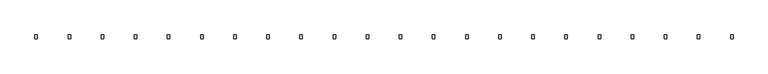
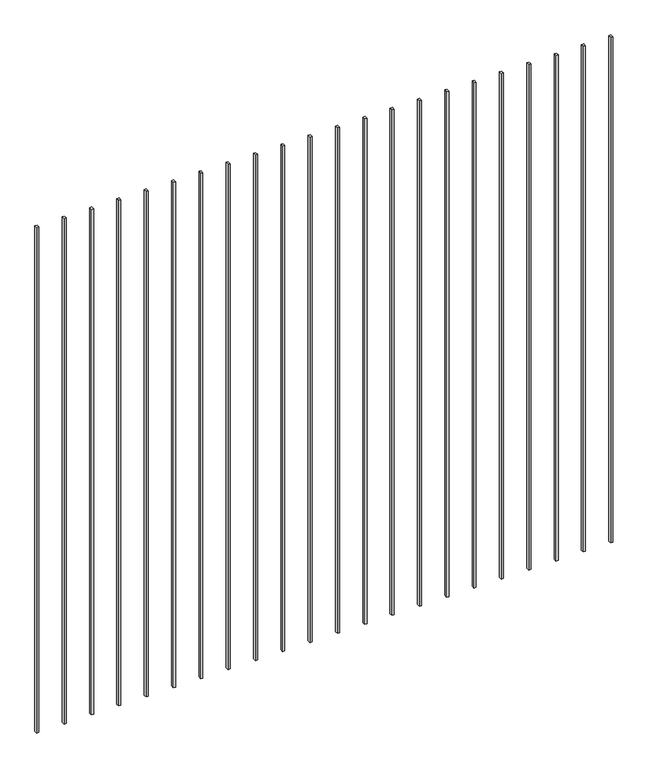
"""IFC4 building model written with IfcOpenShell, lengths in millimetres: railing geometry, 南右隔柵1 : 南右隔柵."""

from ifc_helpers import new_model, si_unit, frame, origin, place, context, project, spatial, polyline, outline, extrude, source, transform, mapped, element, save


def railing_2e298e7e(model_context):
    return source(origin(), model_context, "Body", "SweptSolid", [
        extrude(outline(polyline([(28790.8689947, -25879.9049261), (28890.8689947, -25879.9049261), (28890.8689947, -26029.9049261), (28790.8689947, -26029.9049261), (28790.8689947, -25879.9049261)])), frame((0.0, 0.0, 12700.0), z_axis=(0.0, 0.0, 1.0), x_axis=(1.0, 0.0, 0.0)), (0.0, 0.0, 1.0), 25400.0),
        extrude(outline(polyline([(27490.8689947, -25879.9049261), (27590.8689947, -25879.9049261), (27590.8689947, -26029.9049261), (27490.8689947, -26029.9049261), (27490.8689947, -25879.9049261)])), frame((0.0, 0.0, 12700.0), z_axis=(0.0, 0.0, 1.0), x_axis=(1.0, 0.0, 0.0)), (0.0, 0.0, 1.0), 25400.0),
        extrude(outline(polyline([(26190.8689947, -25879.9049261), (26290.8689947, -25879.9049261), (26290.8689947, -26029.9049261), (26190.8689947, -26029.9049261), (26190.8689947, -25879.9049261)])), frame((0.0, 0.0, 12700.0), z_axis=(0.0, 0.0, 1.0), x_axis=(1.0, 0.0, 0.0)), (0.0, 0.0, 1.0), 25400.0),
        extrude(outline(polyline([(24890.8689947, -25879.9049261), (24990.8689947, -25879.9049261), (24990.8689947, -26029.9049261), (24890.8689947, -26029.9049261), (24890.8689947, -25879.9049261)])), frame((0.0, 0.0, 12700.0), z_axis=(0.0, 0.0, 1.0), x_axis=(1.0, 0.0, 0.0)), (0.0, 0.0, 1.0), 25400.0),
        extrude(outline(polyline([(23590.8689947, -25879.9049261), (23690.8689947, -25879.9049261), (23690.8689947, -26029.9049261), (23590.8689947, -26029.9049261), (23590.8689947, -25879.9049261)])), frame((0.0, 0.0, 12700.0), z_axis=(0.0, 0.0, 1.0), x_axis=(1.0, 0.0, 0.0)), (0.0, 0.0, 1.0), 25400.0),
        extrude(outline(polyline([(22290.8689947, -25879.9049261), (22390.8689947, -25879.9049261), (22390.8689947, -26029.9049261), (22290.8689947, -26029.9049261), (22290.8689947, -25879.9049261)])), frame((0.0, 0.0, 12700.0), z_axis=(0.0, 0.0, 1.0), x_axis=(1.0, 0.0, 0.0)), (0.0, 0.0, 1.0), 25400.0),
        extrude(outline(polyline([(20990.8689947, -25879.9049261), (21090.8689947, -25879.9049261), (21090.8689947, -26029.9049261), (20990.8689947, -26029.9049261), (20990.8689947, -25879.9049261)])), frame((0.0, 0.0, 12700.0), z_axis=(0.0, 0.0, 1.0), x_axis=(1.0, 0.0, 0.0)), (0.0, 0.0, 1.0), 25400.0),
        extrude(outline(polyline([(19690.8689947, -25879.9049261), (19790.8689947, -25879.9049261), (19790.8689947, -26029.9049261), (19690.8689947, -26029.9049261), (19690.8689947, -25879.9049261)])), frame((0.0, 0.0, 12700.0), z_axis=(0.0, 0.0, 1.0), x_axis=(1.0, 0.0, 0.0)), (0.0, 0.0, 1.0), 25400.0),
        extrude(outline(polyline([(18390.8689947, -25879.9049261), (18490.8689947, -25879.9049261), (18490.8689947, -26029.9049261), (18390.8689947, -26029.9049261), (18390.8689947, -25879.9049261)])), frame((0.0, 0.0, 12700.0), z_axis=(0.0, 0.0, 1.0), x_axis=(1.0, 0.0, 0.0)), (0.0, 0.0, 1.0), 25400.0),
        extrude(outline(polyline([(17090.8689947, -25879.9049261), (17190.8689947, -25879.9049261), (17190.8689947, -26029.9049261), (17090.8689947, -26029.9049261), (17090.8689947, -25879.9049261)])), frame((0.0, 0.0, 12700.0), z_axis=(0.0, 0.0, 1.0), x_axis=(1.0, 0.0, 0.0)), (0.0, 0.0, 1.0), 25400.0),
        extrude(outline(polyline([(15790.8689947, -25879.9049261), (15890.8689947, -25879.9049261), (15890.8689947, -26029.9049261), (15790.8689947, -26029.9049261), (15790.8689947, -25879.9049261)])), frame((0.0, 0.0, 12700.0), z_axis=(0.0, 0.0, 1.0), x_axis=(1.0, 0.0, 0.0)), (0.0, 0.0, 1.0), 25400.0),
        extrude(outline(polyline([(14490.8689947, -25879.9049261), (14590.8689947, -25879.9049261), (14590.8689947, -26029.9049261), (14490.8689947, -26029.9049261), (14490.8689947, -25879.9049261)])), frame((0.0, 0.0, 12700.0), z_axis=(0.0, 0.0, 1.0), x_axis=(1.0, 0.0, 0.0)), (0.0, 0.0, 1.0), 25400.0),
        extrude(outline(polyline([(13190.8689947, -25879.9049261), (13290.8689947, -25879.9049261), (13290.8689947, -26029.9049261), (13190.8689947, -26029.9049261), (13190.8689947, -25879.9049261)])), frame((0.0, 0.0, 12700.0), z_axis=(0.0, 0.0, 1.0), x_axis=(1.0, 0.0, 0.0)), (0.0, 0.0, 1.0), 25400.0),
        extrude(outline(polyline([(11890.8689947, -25879.9049261), (11990.8689947, -25879.9049261), (11990.8689947, -26029.9049261), (11890.8689947, -26029.9049261), (11890.8689947, -25879.9049261)])), frame((0.0, 0.0, 12700.0), z_axis=(0.0, 0.0, 1.0), x_axis=(1.0, 0.0, 0.0)), (0.0, 0.0, 1.0), 25400.0),
        extrude(outline(polyline([(10590.8689947, -25879.9049261), (10690.8689947, -25879.9049261), (10690.8689947, -26029.9049261), (10590.8689947, -26029.9049261), (10590.8689947, -25879.9049261)])), frame((0.0, 0.0, 12700.0), z_axis=(0.0, 0.0, 1.0), x_axis=(1.0, 0.0, 0.0)), (0.0, 0.0, 1.0), 25400.0),
        extrude(outline(polyline([(9290.8689947, -25879.9049261), (9390.8689947, -25879.9049261), (9390.8689947, -26029.9049261), (9290.8689947, -26029.9049261), (9290.8689947, -25879.9049261)])), frame((0.0, 0.0, 12700.0), z_axis=(0.0, 0.0, 1.0), x_axis=(1.0, 0.0, 0.0)), (0.0, 0.0, 1.0), 25400.0),
        extrude(outline(polyline([(7990.8689947, -25879.9049261), (8090.8689947, -25879.9049261), (8090.8689947, -26029.9049261), (7990.8689947, -26029.9049261), (7990.8689947, -25879.9049261)])), frame((0.0, 0.0, 12700.0), z_axis=(0.0, 0.0, 1.0), x_axis=(1.0, 0.0, 0.0)), (0.0, 0.0, 1.0), 25400.0),
        extrude(outline(polyline([(6690.8689947, -25879.9049261), (6790.8689947, -25879.9049261), (6790.8689947, -26029.9049261), (6690.8689947, -26029.9049261), (6690.8689947, -25879.9049261)])), frame((0.0, 0.0, 12700.0), z_axis=(0.0, 0.0, 1.0), x_axis=(1.0, 0.0, 0.0)), (0.0, 0.0, 1.0), 25400.0),
        extrude(outline(polyline([(5390.8689947, -25879.9049261), (5490.8689947, -25879.9049261), (5490.8689947, -26029.9049261), (5390.8689947, -26029.9049261), (5390.8689947, -25879.9049261)])), frame((0.0, 0.0, 12700.0), z_axis=(0.0, 0.0, 1.0), x_axis=(1.0, 0.0, 0.0)), (0.0, 0.0, 1.0), 25400.0),
        extrude(outline(polyline([(4090.8689947, -25879.9049261), (4190.8689947, -25879.9049261), (4190.8689947, -26029.9049261), (4090.8689947, -26029.9049261), (4090.8689947, -25879.9049261)])), frame((0.0, 0.0, 12700.0), z_axis=(0.0, 0.0, 1.0), x_axis=(1.0, 0.0, 0.0)), (0.0, 0.0, 1.0), 25400.0),
        extrude(outline(polyline([(2790.8689947, -25879.9049261), (2890.8689947, -25879.9049261), (2890.8689947, -26029.9049261), (2790.8689947, -26029.9049261), (2790.8689947, -25879.9049261)])), frame((0.0, 0.0, 12700.0), z_axis=(0.0, 0.0, 1.0), x_axis=(1.0, 0.0, 0.0)), (0.0, 0.0, 1.0), 25400.0),
        extrude(outline(polyline([(1490.8689947, -25879.9049261), (1590.8689947, -25879.9049261), (1590.8689947, -26029.9049261), (1490.8689947, -26029.9049261), (1490.8689947, -25879.9049261)])), frame((0.0, 0.0, 12700.0), z_axis=(0.0, 0.0, 1.0), x_axis=(1.0, 0.0, 0.0)), (0.0, 0.0, 1.0), 25400.0),
    ])


if __name__ == "__main__":
    model = new_model("IFC4")
    model_context = context("Model", 3, world=origin())
    ifc_project = project(units=[si_unit("LENGTHUNIT", "METRE", prefix="MILLI")], contexts=[model_context])
    site = spatial("IfcSite", under=ifc_project)
    building = spatial("IfcBuilding", under=site)
    placement = place(None, origin())
    railing_shape = railing_2e298e7e(model_context)
    element("IfcRailing", 1, ObjectType="南右隔柵1 : 南右隔柵", at=placement, inside=building, context=model_context, shape_type="MappedRepresentation", body=[
        mapped(railing_shape, transform((0.0, 0.0, 0.0), x_axis=(1.0, 0.0, 0.0), y_axis=(0.0, 1.0, 0.0), z_axis=(0.0, 0.0, 1.0))),
    ])
    save(model, "model.ifc")
